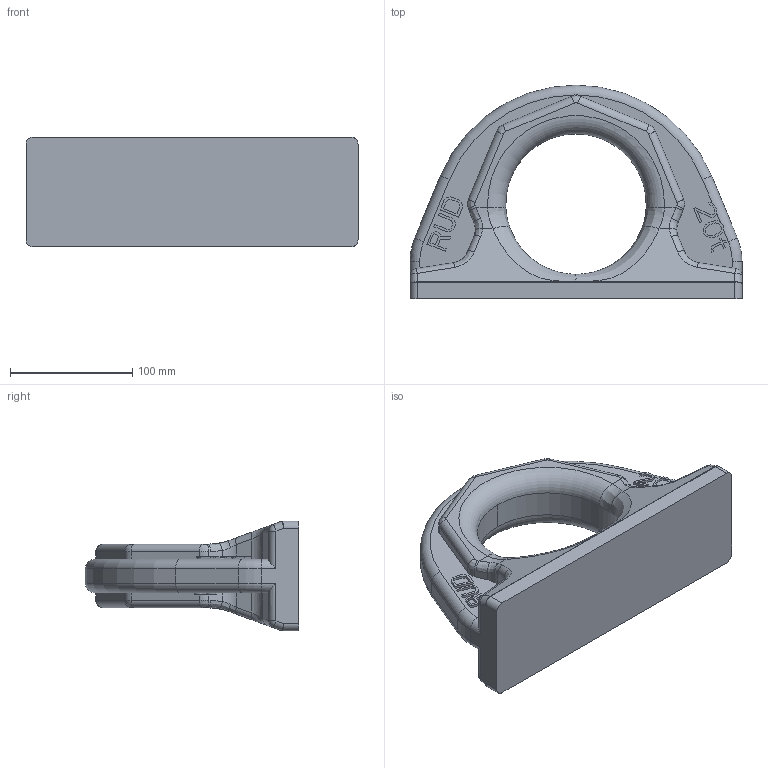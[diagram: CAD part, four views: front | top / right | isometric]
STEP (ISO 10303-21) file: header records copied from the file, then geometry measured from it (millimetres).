
FILE_DESCRIPTION((''),'2;1');
FILE_NAME('001-M34398-P-1','2023-11-07T10:11:14',('Tristan.Roth'),(''),'CREO PARAMETRIC BY PTC INC, 2022162','CREO PARAMETRIC BY PTC INC, 2022162','');
FILE_SCHEMA(('AP242_MANAGED_MODEL_BASED_3D_ENGINEERING_MIM_LF { 1 0 10303 442 1 1 4 }'));
Length unit declared in the file: millimetre
Products named in the file (1): 001-M34398-P-1
Bounding box: 272 x 175 x 90 mm (x, y, z)
Volume: 1433502.7 mm3; surface area: 126085.4 mm2
Topology: 1 solids, 1 shells, 431 faces, 1149 edges, 736 vertices
Faces by surface type: plane 307, cylinder 74, bspline 38, torus 8, sphere 4
Entity records: 15238 total; most frequent: CARTESIAN_POINT 4555, ORIENTED_EDGE 2298, DIRECTION 2009, EDGE_CURVE 1149, VECTOR 923, LINE 923, VERTEX_POINT 736, AXIS2_PLACEMENT_3D 543
